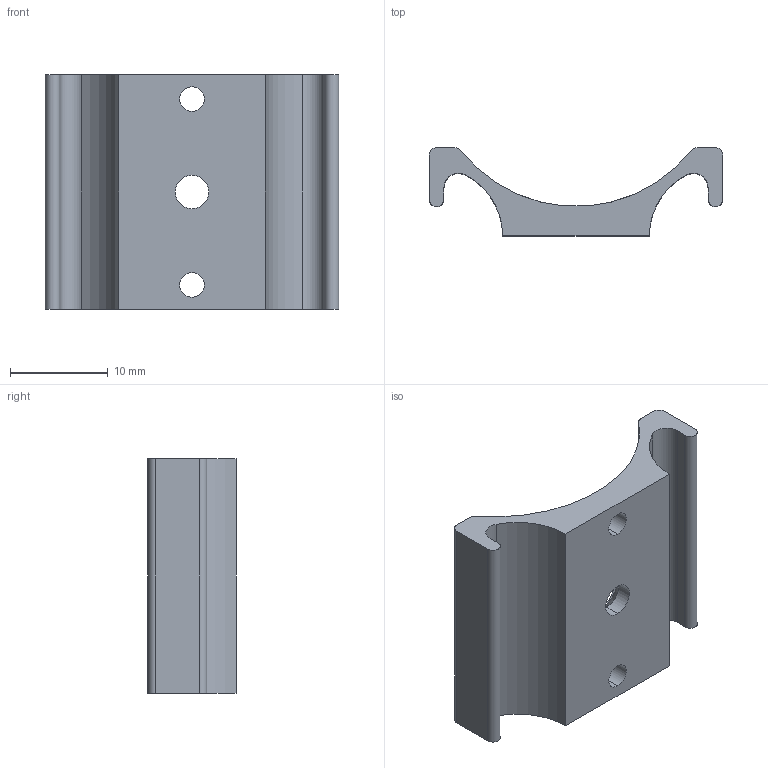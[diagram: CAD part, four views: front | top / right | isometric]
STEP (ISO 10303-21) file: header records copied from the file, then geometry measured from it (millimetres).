
FILE_DESCRIPTION (( 'STEP AP203' ), '1' );
FILE_NAME ('LUMEN-M-MOUNT-X1.STEP', '2016-02-17T20:28:56', ( '' ), ( '' ), 'SwSTEP 2.0', 'SolidWorks 2014', '' );
FILE_SCHEMA (( 'CONFIG_CONTROL_DESIGN' ));
Length unit declared in the file: millimetre
Products named in the file (1): LUMEN-M-MOUNT-X1
Bounding box: 30 x 9 x 24 mm (x, y, z)
Volume: 2295 mm3; surface area: 2326.2 mm2
Topology: 1 solids, 1 shells, 30 faces, 78 edges, 50 vertices
Faces by surface type: cylinder 19, plane 9, cone 2
Entity records: 1137 total; most frequent: CARTESIAN_POINT 293, DIRECTION 166, ORIENTED_EDGE 156, EDGE_CURVE 78, AXIS2_PLACEMENT_3D 63, VERTEX_POINT 50, VECTOR 40, LINE 40
